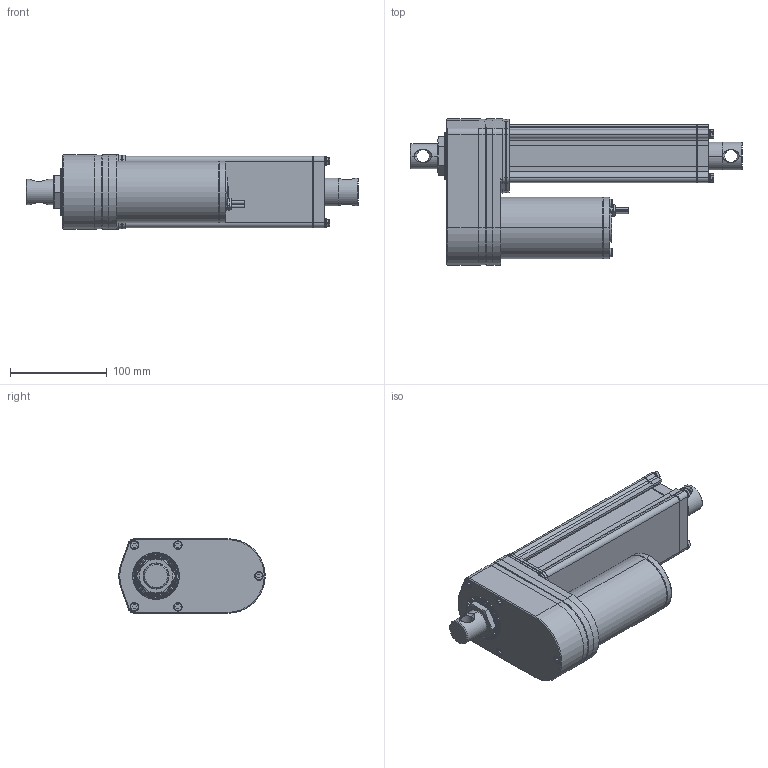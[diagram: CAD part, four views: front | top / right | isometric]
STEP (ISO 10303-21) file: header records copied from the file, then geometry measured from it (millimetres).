
FILE_DESCRIPTION((''),' ');
FILE_NAME('Zeichnung 1.stp',' ',('MSW'),('MSW'),' ','ACIS 14.0',' ');
FILE_SCHEMA(('automotive_design'));
Length unit declared in the file: inch
Products named in the file (2): dszy13-100_std
Bounding box: 344 x 151.7 x 77.2 mm (x, y, z)
Volume: 1782313.8 mm3; surface area: 188158.6 mm2
Topology: 2 solids, 2 shells, 1648 faces, 4015 edges, 2386 vertices
Faces by surface type: plane 1316, cylinder 218, cone 60, torus 30, bspline 24
Entity records: 60917 total; most frequent: CARTESIAN_POINT 8562, DIRECTION 8537, ORIENTED_EDGE 7982, EDGE_CURVE 3991, AXIS2_PLACEMENT_3D 2962, LINE 2613, VECTOR 2613, VERTEX_POINT 2386
